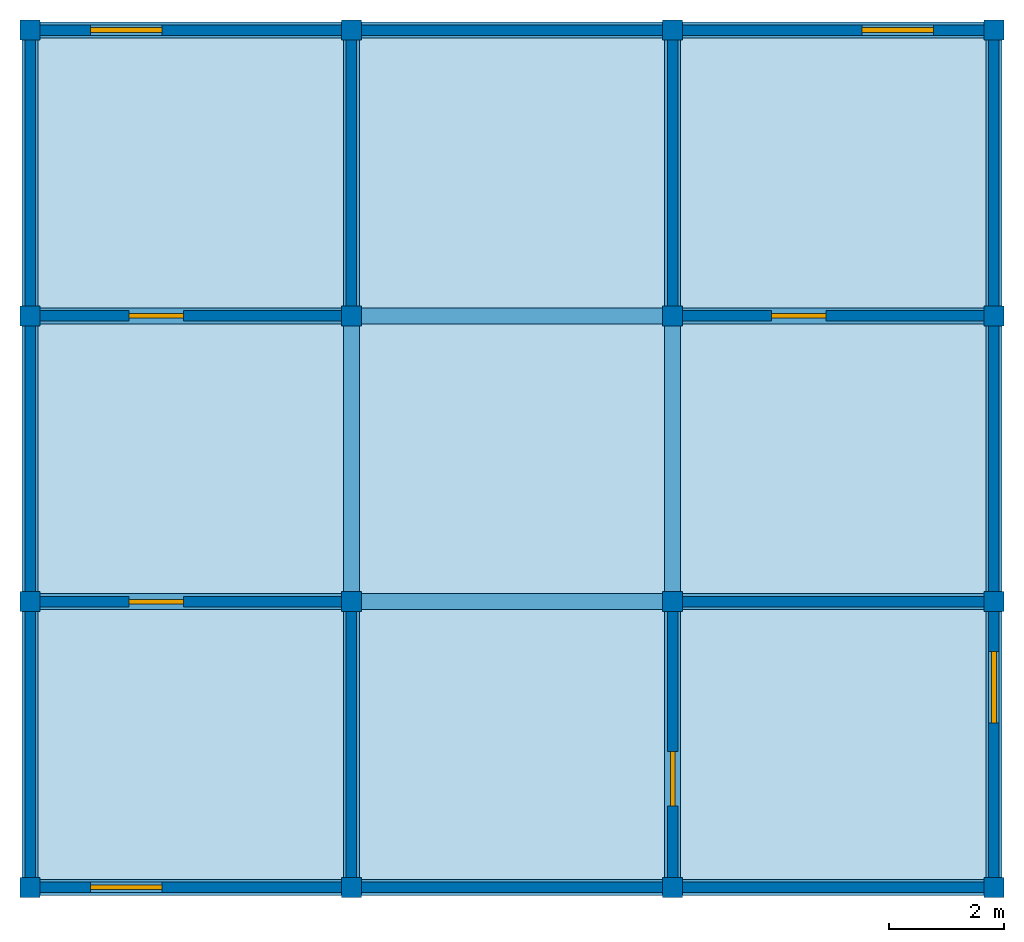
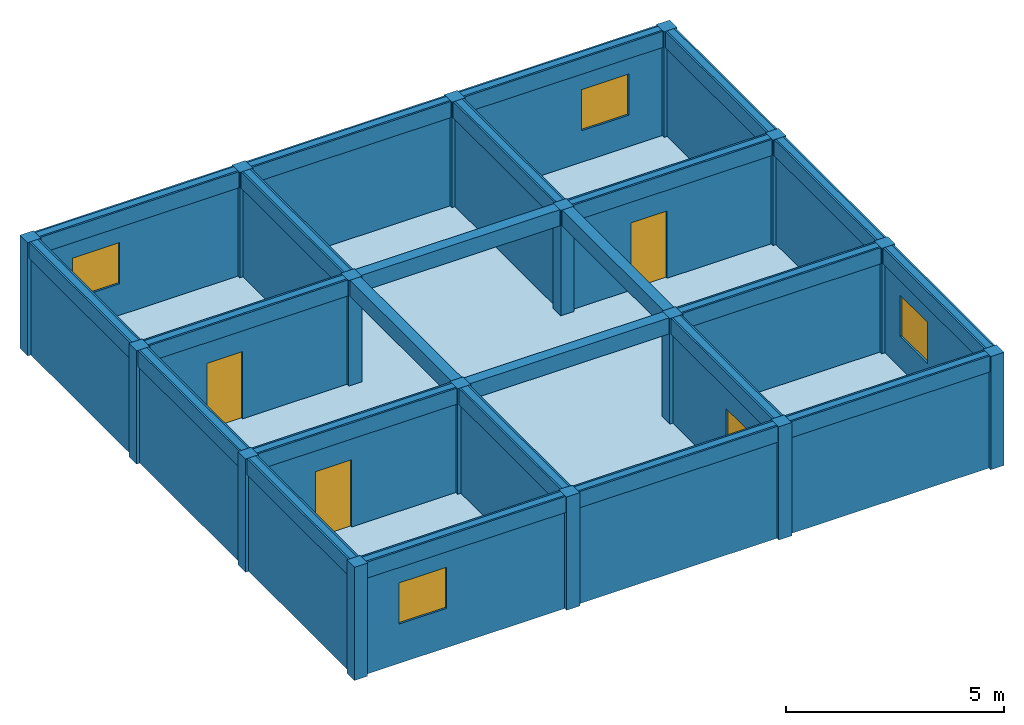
# One storey: 24 beams, 20 walls, 16 columns, 4 doors, 4 windows, 1 slab, 8 openings.
"""IFC4X3 building model written with IfcOpenShell, lengths in metres."""

from ifc_helpers import new_model, si_unit, frame, origin_with_axes, origin_2d, place, context, project, spatial, rectangle, extrude, material, element, fill, save


model = new_model("IFC4X3")

# Units and contexts
model_context = context("Model", 3, precision=1e-05, world=origin_with_axes())
ifc_project = project(units=[si_unit("LENGTHUNIT", "METRE"), si_unit("AREAUNIT", "SQUARE_METRE"), si_unit("VOLUMEUNIT", "CUBIC_METRE")], contexts=[model_context])

# Site, building, storey
site = spatial("IfcSite", under=ifc_project, Name="Puerto Montt Parcel", CompositionType="ELEMENT")
building = spatial("IfcBuilding", under=site, Name="Apex Hub", CompositionType="ELEMENT")
storey = spatial("IfcBuildingStorey", under=building, Name="Level 8", CompositionType="ELEMENT", Elevation=22.17)

# Columns
ifc_material_1 = material(Name="Timber")
column_1_placement = place(None, frame((-8.415, -7.485, 22.171), z_axis=(0.0, 0.0, 1.0), x_axis=(1.0, 0.0, 0.0)))
element("IfcColumn", 1, at=column_1_placement, inside=storey, material=ifc_material_1, Name="Column 8.1", ObjectType="Structural Column", PredefinedType="PILASTER", context=model_context, shape_type="SweptSolid", body=[
    extrude(rectangle(XDim=0.35, YDim=0.35, at=origin_2d()), origin_with_axes(), (0.0, 0.0, 1.0), 3.167),
])
column_2_placement = place(None, frame((-8.415, -2.495, 22.171), z_axis=(0.0, 0.0, 1.0), x_axis=(1.0, 0.0, 0.0)))
element("IfcColumn", 2, at=column_2_placement, inside=storey, material=ifc_material_1, Name="Column 8.2", ObjectType="Core Column", PredefinedType="COLUMN", context=model_context, shape_type="SweptSolid", body=[
    extrude(rectangle(XDim=0.35, YDim=0.35, at=origin_2d()), origin_with_axes(), (0.0, 0.0, 1.0), 3.167),
])
column_3_placement = place(None, frame((-8.415, 2.495, 22.171), z_axis=(0.0, 0.0, 1.0), x_axis=(1.0, 0.0, 0.0)))
element("IfcColumn", 3, at=column_3_placement, inside=storey, material=ifc_material_1, Name="Column 8.3", ObjectType="Corner Column", PredefinedType="USERDEFINED", context=model_context, shape_type="SweptSolid", body=[
    extrude(rectangle(XDim=0.35, YDim=0.35, at=origin_2d()), origin_with_axes(), (0.0, 0.0, 1.0), 3.167),
])
for number, where, z_axis, x_axis, name in (
    (4, (-8.415, 7.485, 22.171), (0.0, 0.0, 1.0), (1.0, 0.0, 0.0), "Column 8.4"),
    (5, (-2.805, -7.485, 22.171), (0.0, 0.0, 1.0), (1.0, 0.0, 0.0), "Column 8.5"),
):
    element("IfcColumn", number, at=place(None, frame(where, z_axis=z_axis, x_axis=x_axis)), inside=storey, material=ifc_material_1, Name=name, ObjectType="Facade Column", PredefinedType="COLUMN", context=model_context, shape_type="SweptSolid", body=[
        extrude(rectangle(XDim=0.35, YDim=0.35, at=origin_2d()), origin_with_axes(), (0.0, 0.0, 1.0), 3.167),
    ])
column_4_placement = place(None, frame((-2.805, -2.495, 22.171), z_axis=(0.0, 0.0, 1.0), x_axis=(1.0, 0.0, 0.0)))
element("IfcColumn", 6, at=column_4_placement, inside=storey, material=ifc_material_1, Name="Column 8.6", ObjectType="Facade Column", PredefinedType="PILASTER", context=model_context, shape_type="SweptSolid", body=[
    extrude(rectangle(XDim=0.35, YDim=0.35, at=origin_2d()), origin_with_axes(), (0.0, 0.0, 1.0), 3.167),
])
column_5_placement = place(None, frame((-2.805, 2.495, 22.171), z_axis=(0.0, 0.0, 1.0), x_axis=(1.0, 0.0, 0.0)))
element("IfcColumn", 7, at=column_5_placement, inside=storey, material=ifc_material_1, Name="Column 8.7", ObjectType="Structural Column", PredefinedType="USERDEFINED", context=model_context, shape_type="SweptSolid", body=[
    extrude(rectangle(XDim=0.35, YDim=0.35, at=origin_2d()), origin_with_axes(), (0.0, 0.0, 1.0), 3.167),
])
column_6_placement = place(None, frame((-2.805, 7.485, 22.171), z_axis=(0.0, 0.0, 1.0), x_axis=(1.0, 0.0, 0.0)))
element("IfcColumn", 8, at=column_6_placement, inside=storey, material=ifc_material_1, Name="Column 8.8", ObjectType="Core Column", PredefinedType="NOTDEFINED", context=model_context, shape_type="SweptSolid", body=[
    extrude(rectangle(XDim=0.35, YDim=0.35, at=origin_2d()), origin_with_axes(), (0.0, 0.0, 1.0), 3.167),
])
column_7_placement = place(None, frame((2.805, -7.485, 22.171), z_axis=(0.0, 0.0, 1.0), x_axis=(1.0, 0.0, 0.0)))
element("IfcColumn", 9, at=column_7_placement, inside=storey, material=ifc_material_1, Name="Column 8.9", ObjectType="Core Column", PredefinedType="USERDEFINED", context=model_context, shape_type="SweptSolid", body=[
    extrude(rectangle(XDim=0.35, YDim=0.35, at=origin_2d()), origin_with_axes(), (0.0, 0.0, 1.0), 3.167),
])
for number, where, z_axis, x_axis, name in (
    (10, (2.805, -2.495, 22.171), (0.0, 0.0, 1.0), (1.0, 0.0, 0.0), "Column 8.10"),
    (11, (2.805, 2.495, 22.171), (0.0, 0.0, 1.0), (1.0, 0.0, 0.0), "Column 8.11"),
):
    element("IfcColumn", number, at=place(None, frame(where, z_axis=z_axis, x_axis=x_axis)), inside=storey, material=ifc_material_1, Name=name, ObjectType="Core Column", PredefinedType="NOTDEFINED", context=model_context, shape_type="SweptSolid", body=[
        extrude(rectangle(XDim=0.35, YDim=0.35, at=origin_2d()), origin_with_axes(), (0.0, 0.0, 1.0), 3.167),
    ])
column_8_placement = place(None, frame((2.805, 7.485, 22.171), z_axis=(0.0, 0.0, 1.0), x_axis=(1.0, 0.0, 0.0)))
element("IfcColumn", 12, at=column_8_placement, inside=storey, material=ifc_material_1, Name="Column 8.12", ObjectType="Facade Column", PredefinedType="COLUMN", context=model_context, shape_type="SweptSolid", body=[
    extrude(rectangle(XDim=0.35, YDim=0.35, at=origin_2d()), origin_with_axes(), (0.0, 0.0, 1.0), 3.167),
])
column_9_placement = place(None, frame((8.415, -7.485, 22.171), z_axis=(0.0, 0.0, 1.0), x_axis=(1.0, 0.0, 0.0)))
element("IfcColumn", 13, at=column_9_placement, inside=storey, material=ifc_material_1, Name="Column 8.13", ObjectType="Core Column", PredefinedType="NOTDEFINED", context=model_context, shape_type="SweptSolid", body=[
    extrude(rectangle(XDim=0.35, YDim=0.35, at=origin_2d()), origin_with_axes(), (0.0, 0.0, 1.0), 3.167),
])
column_10_placement = place(None, frame((8.415, -2.495, 22.171), z_axis=(0.0, 0.0, 1.0), x_axis=(1.0, 0.0, 0.0)))
element("IfcColumn", 14, at=column_10_placement, inside=storey, material=ifc_material_1, Name="Column 8.14", ObjectType="Structural Column", PredefinedType="USERDEFINED", context=model_context, shape_type="SweptSolid", body=[
    extrude(rectangle(XDim=0.35, YDim=0.35, at=origin_2d()), origin_with_axes(), (0.0, 0.0, 1.0), 3.167),
])
column_11_placement = place(None, frame((8.415, 2.495, 22.171), z_axis=(0.0, 0.0, 1.0), x_axis=(1.0, 0.0, 0.0)))
element("IfcColumn", 15, at=column_11_placement, inside=storey, material=ifc_material_1, Name="Column 8.15", ObjectType="Structural Column", PredefinedType="NOTDEFINED", context=model_context, shape_type="SweptSolid", body=[
    extrude(rectangle(XDim=0.35, YDim=0.35, at=origin_2d()), origin_with_axes(), (0.0, 0.0, 1.0), 3.167),
])
column_12_placement = place(None, frame((8.415, 7.485, 22.171), z_axis=(0.0, 0.0, 1.0), x_axis=(1.0, 0.0, 0.0)))
element("IfcColumn", 16, at=column_12_placement, inside=storey, material=ifc_material_1, Name="Column 8.16", ObjectType="Structural Column", PredefinedType="COLUMN", context=model_context, shape_type="SweptSolid", body=[
    extrude(rectangle(XDim=0.35, YDim=0.35, at=origin_2d()), origin_with_axes(), (0.0, 0.0, 1.0), 3.167),
])

# Beams
beam_1_placement = place(None, frame((-5.61, -7.485, 24.888), z_axis=(0.0, 0.0, 1.0), x_axis=(1.0, 0.0, 0.0)))
element("IfcBeam", 17, at=beam_1_placement, inside=storey, material=ifc_material_1, Name="Beam 8.1", ObjectType="Ridge Beam", PredefinedType="T_BEAM", context=model_context, shape_type="SweptSolid", body=[
    extrude(rectangle(XDim=5.61, YDim=0.28, at=origin_2d()), origin_with_axes(), (0.0, 0.0, 1.0), 0.45),
])
beam_2_placement = place(None, frame((0.0, -7.485, 24.888), z_axis=(0.0, 0.0, 1.0), x_axis=(1.0, 0.0, 0.0)))
element("IfcBeam", 18, at=beam_2_placement, inside=storey, material=ifc_material_1, Name="Beam 8.2", ObjectType="Rafter Beam", PredefinedType="LINTEL", context=model_context, shape_type="SweptSolid", body=[
    extrude(rectangle(XDim=5.61, YDim=0.28, at=origin_2d()), origin_with_axes(), (0.0, 0.0, 1.0), 0.45),
])
beam_3_placement = place(None, frame((5.61, -7.485, 24.888), z_axis=(0.0, 0.0, 1.0), x_axis=(1.0, 0.0, 0.0)))
element("IfcBeam", 19, at=beam_3_placement, inside=storey, material=ifc_material_1, Name="Beam 8.3", ObjectType="Ridge Beam", PredefinedType="BEAM", context=model_context, shape_type="SweptSolid", body=[
    extrude(rectangle(XDim=5.61, YDim=0.28, at=origin_2d()), origin_with_axes(), (0.0, 0.0, 1.0), 0.45),
])
beam_4_placement = place(None, frame((-5.61, -2.495, 24.888), z_axis=(0.0, 0.0, 1.0), x_axis=(1.0, 0.0, 0.0)))
element("IfcBeam", 20, at=beam_4_placement, inside=storey, material=ifc_material_1, Name="Beam 8.4", ObjectType="Transfer Beam", PredefinedType="T_BEAM", context=model_context, shape_type="SweptSolid", body=[
    extrude(rectangle(XDim=5.61, YDim=0.28, at=origin_2d()), origin_with_axes(), (0.0, 0.0, 1.0), 0.45),
])
beam_5_placement = place(None, frame((0.0, -2.495, 24.888), z_axis=(0.0, 0.0, 1.0), x_axis=(1.0, 0.0, 0.0)))
element("IfcBeam", 21, at=beam_5_placement, inside=storey, material=ifc_material_1, Name="Beam 8.5", ObjectType="Secondary Beam", PredefinedType="NOTDEFINED", context=model_context, shape_type="SweptSolid", body=[
    extrude(rectangle(XDim=5.61, YDim=0.28, at=origin_2d()), origin_with_axes(), (0.0, 0.0, 1.0), 0.45),
])
beam_6_placement = place(None, frame((5.61, -2.495, 24.888), z_axis=(0.0, 0.0, 1.0), x_axis=(1.0, 0.0, 0.0)))
element("IfcBeam", 22, at=beam_6_placement, inside=storey, material=ifc_material_1, Name="Beam 8.6", ObjectType="Primary Beam", PredefinedType="BEAM", context=model_context, shape_type="SweptSolid", body=[
    extrude(rectangle(XDim=5.61, YDim=0.28, at=origin_2d()), origin_with_axes(), (0.0, 0.0, 1.0), 0.45),
])
beam_7_placement = place(None, frame((-5.61, 2.495, 24.888), z_axis=(0.0, 0.0, 1.0), x_axis=(1.0, 0.0, 0.0)))
element("IfcBeam", 23, at=beam_7_placement, inside=storey, material=ifc_material_1, Name="Beam 8.7", ObjectType="Transfer Beam", PredefinedType="NOTDEFINED", context=model_context, shape_type="SweptSolid", body=[
    extrude(rectangle(XDim=5.61, YDim=0.28, at=origin_2d()), origin_with_axes(), (0.0, 0.0, 1.0), 0.45),
])
beam_8_placement = place(None, frame((0.0, 2.495, 24.888), z_axis=(0.0, 0.0, 1.0), x_axis=(1.0, 0.0, 0.0)))
element("IfcBeam", 24, at=beam_8_placement, inside=storey, material=ifc_material_1, Name="Beam 8.8", ObjectType="Ridge Beam", PredefinedType="JOIST", context=model_context, shape_type="SweptSolid", body=[
    extrude(rectangle(XDim=5.61, YDim=0.28, at=origin_2d()), origin_with_axes(), (0.0, 0.0, 1.0), 0.45),
])
beam_9_placement = place(None, frame((5.61, 2.495, 24.888), z_axis=(0.0, 0.0, 1.0), x_axis=(1.0, 0.0, 0.0)))
element("IfcBeam", 25, at=beam_9_placement, inside=storey, material=ifc_material_1, Name="Beam 8.9", ObjectType="Primary Beam", PredefinedType="SPANDREL", context=model_context, shape_type="SweptSolid", body=[
    extrude(rectangle(XDim=5.61, YDim=0.28, at=origin_2d()), origin_with_axes(), (0.0, 0.0, 1.0), 0.45),
])
beam_10_placement = place(None, frame((-5.61, 7.485, 24.888), z_axis=(0.0, 0.0, 1.0), x_axis=(1.0, 0.0, 0.0)))
element("IfcBeam", 26, at=beam_10_placement, inside=storey, material=ifc_material_1, Name="Beam 8.10", ObjectType="Secondary Beam", PredefinedType="T_BEAM", context=model_context, shape_type="SweptSolid", body=[
    extrude(rectangle(XDim=5.61, YDim=0.28, at=origin_2d()), origin_with_axes(), (0.0, 0.0, 1.0), 0.45),
])
beam_11_placement = place(None, frame((0.0, 7.485, 24.888), z_axis=(0.0, 0.0, 1.0), x_axis=(1.0, 0.0, 0.0)))
element("IfcBeam", 27, at=beam_11_placement, inside=storey, material=ifc_material_1, Name="Beam 8.11", ObjectType="Secondary Beam", PredefinedType="BEAM", context=model_context, shape_type="SweptSolid", body=[
    extrude(rectangle(XDim=5.61, YDim=0.28, at=origin_2d()), origin_with_axes(), (0.0, 0.0, 1.0), 0.45),
])
beam_12_placement = place(None, frame((5.61, 7.485, 24.888), z_axis=(0.0, 0.0, 1.0), x_axis=(1.0, 0.0, 0.0)))
element("IfcBeam", 28, at=beam_12_placement, inside=storey, material=ifc_material_1, Name="Beam 8.12", ObjectType="Secondary Beam", PredefinedType="NOTDEFINED", context=model_context, shape_type="SweptSolid", body=[
    extrude(rectangle(XDim=5.61, YDim=0.28, at=origin_2d()), origin_with_axes(), (0.0, 0.0, 1.0), 0.45),
])
beam_13_placement = place(None, frame((-8.415, -4.99, 24.888), z_axis=(0.0, 0.0, 1.0), x_axis=(0.0, 1.0, 0.0)))
element("IfcBeam", 29, at=beam_13_placement, inside=storey, material=ifc_material_1, Name="Beam 8.13", ObjectType="Rafter Beam", PredefinedType="NOTDEFINED", context=model_context, shape_type="SweptSolid", body=[
    extrude(rectangle(XDim=4.99, YDim=0.28, at=origin_2d()), origin_with_axes(), (0.0, 0.0, 1.0), 0.45),
])
beam_14_placement = place(None, frame((-8.415, 0.0, 24.888), z_axis=(0.0, 0.0, 1.0), x_axis=(0.0, 1.0, 0.0)))
element("IfcBeam", 30, at=beam_14_placement, inside=storey, material=ifc_material_1, Name="Beam 8.14", ObjectType="Primary Beam", PredefinedType="HOLLOWCORE", context=model_context, shape_type="SweptSolid", body=[
    extrude(rectangle(XDim=4.99, YDim=0.28, at=origin_2d()), origin_with_axes(), (0.0, 0.0, 1.0), 0.45),
])
beam_15_placement = place(None, frame((-8.415, 4.99, 24.888), z_axis=(0.0, 0.0, 1.0), x_axis=(0.0, 1.0, 0.0)))
element("IfcBeam", 31, at=beam_15_placement, inside=storey, material=ifc_material_1, Name="Beam 8.15", ObjectType="Secondary Beam", PredefinedType="JOIST", context=model_context, shape_type="SweptSolid", body=[
    extrude(rectangle(XDim=4.99, YDim=0.28, at=origin_2d()), origin_with_axes(), (0.0, 0.0, 1.0), 0.45),
])
beam_16_placement = place(None, frame((-2.805, -4.99, 24.888), z_axis=(0.0, 0.0, 1.0), x_axis=(0.0, 1.0, 0.0)))
element("IfcBeam", 32, at=beam_16_placement, inside=storey, material=ifc_material_1, Name="Beam 8.16", ObjectType="Ridge Beam", PredefinedType="USERDEFINED", context=model_context, shape_type="SweptSolid", body=[
    extrude(rectangle(XDim=4.99, YDim=0.28, at=origin_2d()), origin_with_axes(), (0.0, 0.0, 1.0), 0.45),
])
beam_17_placement = place(None, frame((-2.805, 0.0, 24.888), z_axis=(0.0, 0.0, 1.0), x_axis=(0.0, 1.0, 0.0)))
element("IfcBeam", 33, at=beam_17_placement, inside=storey, material=ifc_material_1, Name="Beam 8.17", ObjectType="Primary Beam", PredefinedType="SPANDREL", context=model_context, shape_type="SweptSolid", body=[
    extrude(rectangle(XDim=4.99, YDim=0.28, at=origin_2d()), origin_with_axes(), (0.0, 0.0, 1.0), 0.45),
])
beam_18_placement = place(None, frame((-2.805, 4.99, 24.888), z_axis=(0.0, 0.0, 1.0), x_axis=(0.0, 1.0, 0.0)))
element("IfcBeam", 34, at=beam_18_placement, inside=storey, material=ifc_material_1, Name="Beam 8.18", ObjectType="Primary Beam", PredefinedType="USERDEFINED", context=model_context, shape_type="SweptSolid", body=[
    extrude(rectangle(XDim=4.99, YDim=0.28, at=origin_2d()), origin_with_axes(), (0.0, 0.0, 1.0), 0.45),
])
beam_19_placement = place(None, frame((2.805, -4.99, 24.888), z_axis=(0.0, 0.0, 1.0), x_axis=(0.0, 1.0, 0.0)))
element("IfcBeam", 35, at=beam_19_placement, inside=storey, material=ifc_material_1, Name="Beam 8.19", ObjectType="Transfer Beam", PredefinedType="NOTDEFINED", context=model_context, shape_type="SweptSolid", body=[
    extrude(rectangle(XDim=4.99, YDim=0.28, at=origin_2d()), origin_with_axes(), (0.0, 0.0, 1.0), 0.45),
])
beam_20_placement = place(None, frame((2.805, 0.0, 24.888), z_axis=(0.0, 0.0, 1.0), x_axis=(0.0, 1.0, 0.0)))
element("IfcBeam", 36, at=beam_20_placement, inside=storey, material=ifc_material_1, Name="Beam 8.20", ObjectType="Transfer Beam", PredefinedType="HOLLOWCORE", context=model_context, shape_type="SweptSolid", body=[
    extrude(rectangle(XDim=4.99, YDim=0.28, at=origin_2d()), origin_with_axes(), (0.0, 0.0, 1.0), 0.45),
])
beam_21_placement = place(None, frame((2.805, 4.99, 24.888), z_axis=(0.0, 0.0, 1.0), x_axis=(0.0, 1.0, 0.0)))
element("IfcBeam", 37, at=beam_21_placement, inside=storey, material=ifc_material_1, Name="Beam 8.21", ObjectType="Transfer Beam", PredefinedType="NOTDEFINED", context=model_context, shape_type="SweptSolid", body=[
    extrude(rectangle(XDim=4.99, YDim=0.28, at=origin_2d()), origin_with_axes(), (0.0, 0.0, 1.0), 0.45),
])
beam_22_placement = place(None, frame((8.415, -4.99, 24.888), z_axis=(0.0, 0.0, 1.0), x_axis=(0.0, 1.0, 0.0)))
element("IfcBeam", 38, at=beam_22_placement, inside=storey, material=ifc_material_1, Name="Beam 8.22", ObjectType="Rafter Beam", PredefinedType="SPANDREL", context=model_context, shape_type="SweptSolid", body=[
    extrude(rectangle(XDim=4.99, YDim=0.28, at=origin_2d()), origin_with_axes(), (0.0, 0.0, 1.0), 0.45),
])
beam_23_placement = place(None, frame((8.415, 0.0, 24.888), z_axis=(0.0, 0.0, 1.0), x_axis=(0.0, 1.0, 0.0)))
element("IfcBeam", 39, at=beam_23_placement, inside=storey, material=ifc_material_1, Name="Beam 8.23", ObjectType="Transfer Beam", PredefinedType="SPANDREL", context=model_context, shape_type="SweptSolid", body=[
    extrude(rectangle(XDim=4.99, YDim=0.28, at=origin_2d()), origin_with_axes(), (0.0, 0.0, 1.0), 0.45),
])
beam_24_placement = place(None, frame((8.415, 4.99, 24.888), z_axis=(0.0, 0.0, 1.0), x_axis=(0.0, 1.0, 0.0)))
element("IfcBeam", 40, at=beam_24_placement, inside=storey, material=ifc_material_1, Name="Beam 8.24", ObjectType="Primary Beam", PredefinedType="SPANDREL", context=model_context, shape_type="SweptSolid", body=[
    extrude(rectangle(XDim=4.99, YDim=0.28, at=origin_2d()), origin_with_axes(), (0.0, 0.0, 1.0), 0.45),
])

# Slab
ifc_material_2 = material(Name="Composite")
slab_placement = place(None, frame((0.0, 0.0, 22.17), z_axis=(0.0, 0.0, 1.0), x_axis=(1.0, 0.0, 0.0)))
element("IfcSlab", 41, at=slab_placement, inside=storey, material=ifc_material_2, Name="Slab 8", ObjectType="Floor Slab", PredefinedType="FLOOR", context=model_context, shape_type="SweptSolid", body=[
    extrude(rectangle(XDim=16.83, YDim=14.97, at=origin_2d()), origin_with_axes(), (0.0, 0.0, 1.0), 0.22),
])

# Wall, opening, door
ifc_material_3 = material(Name="Brick")
wall_1_placement = place(None, frame((-5.61, -2.495, 22.171), z_axis=(0.0, 0.0, 1.0), x_axis=(1.0, 0.0, 0.0)))
wall_1 = element("IfcWall", 42, at=wall_1_placement, inside=storey, material=ifc_material_3, Name="Wall 8.1", ObjectType="Corridor Partition", PredefinedType="PARAPET", context=model_context, shape_type="SweptSolid", body=[
    extrude(rectangle(XDim=5.61, YDim=0.183393, at=origin_2d()), origin_with_axes(), (0.0, 0.0, 1.0), 3.167),
])
opening_1_placement = place(None, frame((-6.21, -2.495, 22.171), z_axis=(0.0, 0.0, 1.0), x_axis=(1.0, 0.0, 0.0)))
opening_1 = element("IfcOpeningElement", 43, at=opening_1_placement, cuts=wall_1, Name="Door opening 8.1", ObjectType="Door Opening", PredefinedType="OPENING", context=model_context, shape_type="SweptSolid", body=[
    extrude(rectangle(XDim=0.95, YDim=0.263393, at=origin_2d()), origin_with_axes(), (0.0, 0.0, 1.0), 2.1),
])
door_1_placement = place(None, frame((-6.21, -2.495, 22.171), z_axis=(0.0, 0.0, 1.0), x_axis=(1.0, 0.0, 0.0)))
door_1 = element("IfcDoor", 44, at=door_1_placement, inside=storey, Name="Door 8.1", ObjectType="Fire Door", OverallHeight=2.1, OverallWidth=0.95, context=model_context, shape_type="SweptSolid", body=[
    extrude(rectangle(XDim=0.95, YDim=0.08, at=origin_2d()), origin_with_axes(), (0.0, 0.0, 1.0), 2.1),
])
fill(opening_1, door_1)

# Wall
ifc_material_4 = material(Name="Concrete")
wall_2_placement = place(None, frame((-2.805, -4.99, 22.171), z_axis=(0.0, 0.0, 1.0), x_axis=(0.0, 1.0, 0.0)))
element("IfcWall", 45, at=wall_2_placement, inside=storey, material=ifc_material_4, Name="Wall 8.2", ObjectType="Corridor Partition", PredefinedType="SHEAR", context=model_context, shape_type="SweptSolid", body=[
    extrude(rectangle(XDim=4.99, YDim=0.183393, at=origin_2d()), origin_with_axes(), (0.0, 0.0, 1.0), 3.167),
])

# Wall, opening, window
wall_3_placement = place(None, frame((-5.61, -7.485, 22.171), z_axis=(0.0, 0.0, 1.0), x_axis=(1.0, 0.0, 0.0)))
wall_3 = element("IfcWall", 46, at=wall_3_placement, inside=storey, material=ifc_material_3, Name="Wall 8.3", ObjectType="Exterior Wall", PredefinedType="ELEMENTEDWALL", context=model_context, shape_type="SweptSolid", body=[
    extrude(rectangle(XDim=5.61, YDim=0.183393, at=origin_2d()), origin_with_axes(), (0.0, 0.0, 1.0), 3.167),
])
opening_2_placement = place(None, frame((-6.732, -7.485, 23.271), z_axis=(0.0, 0.0, 1.0), x_axis=(1.0, 0.0, 0.0)))
opening_2 = element("IfcOpeningElement", 47, at=opening_2_placement, cuts=wall_3, Name="Window opening 8.2", ObjectType="Window Opening", PredefinedType="OPENING", context=model_context, shape_type="SweptSolid", body=[
    extrude(rectangle(XDim=1.25, YDim=0.263393, at=origin_2d()), origin_with_axes(), (0.0, 0.0, 1.0), 1.15),
])
window_1_placement = place(None, frame((-6.732, -7.485, 23.271), z_axis=(0.0, 0.0, 1.0), x_axis=(1.0, 0.0, 0.0)))
window_1 = element("IfcWindow", 48, at=window_1_placement, inside=storey, Name="Window 8.2", ObjectType="Fixed Window", OverallHeight=1.15, OverallWidth=1.25, context=model_context, shape_type="SweptSolid", body=[
    extrude(rectangle(XDim=1.25, YDim=0.08, at=origin_2d()), origin_with_axes(), (0.0, 0.0, 1.0), 1.15),
])
fill(opening_2, window_1)

# Wall
wall_4_placement = place(None, frame((-8.415, -4.99, 22.171), z_axis=(0.0, 0.0, 1.0), x_axis=(0.0, 1.0, 0.0)))
element("IfcWall", 49, at=wall_4_placement, inside=storey, material=ifc_material_4, Name="Wall 8.4", ObjectType="Exterior Wall", PredefinedType="PLUMBINGWALL", context=model_context, shape_type="SweptSolid", body=[
    extrude(rectangle(XDim=4.99, YDim=0.183393, at=origin_2d()), origin_with_axes(), (0.0, 0.0, 1.0), 3.167),
])

# Wall, opening, door
wall_5_placement = place(None, frame((2.805, -4.99, 22.171), z_axis=(0.0, 0.0, 1.0), x_axis=(0.0, 1.0, 0.0)))
wall_5 = element("IfcWall", 50, at=wall_5_placement, inside=storey, material=ifc_material_4, Name="Wall 8.5", ObjectType="Corridor Partition", PredefinedType="PLUMBINGWALL", context=model_context, shape_type="SweptSolid", body=[
    extrude(rectangle(XDim=4.99, YDim=0.183393, at=origin_2d()), origin_with_axes(), (0.0, 0.0, 1.0), 3.167),
])
opening_3_placement = place(None, frame((2.805, -5.59, 22.171), z_axis=(0.0, 0.0, 1.0), x_axis=(0.0, 1.0, 0.0)))
opening_3 = element("IfcOpeningElement", 51, at=opening_3_placement, cuts=wall_5, Name="Door opening 8.3", ObjectType="Door Opening", PredefinedType="OPENING", context=model_context, shape_type="SweptSolid", body=[
    extrude(rectangle(XDim=0.95, YDim=0.263393, at=origin_2d()), origin_with_axes(), (0.0, 0.0, 1.0), 2.1),
])
door_2_placement = place(None, frame((2.805, -5.59, 22.171), z_axis=(0.0, 0.0, 1.0), x_axis=(0.0, 1.0, 0.0)))
door_2 = element("IfcDoor", 52, at=door_2_placement, inside=storey, Name="Door 8.3", ObjectType="Entry Door", OverallHeight=2.1, OverallWidth=0.95, context=model_context, shape_type="SweptSolid", body=[
    extrude(rectangle(XDim=0.95, YDim=0.08, at=origin_2d()), origin_with_axes(), (0.0, 0.0, 1.0), 2.1),
])
fill(opening_3, door_2)

# Walls
wall_6_placement = place(None, frame((0.0, -7.485, 22.171), z_axis=(0.0, 0.0, 1.0), x_axis=(1.0, 0.0, 0.0)))
element("IfcWall", 53, at=wall_6_placement, inside=storey, material=ifc_material_3, Name="Wall 8.6", ObjectType="Exterior Wall", PredefinedType="NOTDEFINED", context=model_context, shape_type="SweptSolid", body=[
    extrude(rectangle(XDim=5.61, YDim=0.183393, at=origin_2d()), origin_with_axes(), (0.0, 0.0, 1.0), 3.167),
])
ifc_material_5 = material(Name="Gypsum")
wall_7_placement = place(None, frame((5.61, -2.495, 22.171), z_axis=(0.0, 0.0, 1.0), x_axis=(1.0, 0.0, 0.0)))
element("IfcWall", 54, at=wall_7_placement, inside=storey, material=ifc_material_5, Name="Wall 8.7", ObjectType="Corridor Partition", PredefinedType="SHEAR", context=model_context, shape_type="SweptSolid", body=[
    extrude(rectangle(XDim=5.61, YDim=0.183393, at=origin_2d()), origin_with_axes(), (0.0, 0.0, 1.0), 3.167),
])

# Wall, opening, window
ifc_material_6 = material(Name="CLT")
wall_8_placement = place(None, frame((8.415, -4.99, 22.171), z_axis=(0.0, 0.0, 1.0), x_axis=(0.0, 1.0, 0.0)))
wall_8 = element("IfcWall", 55, at=wall_8_placement, inside=storey, material=ifc_material_6, Name="Wall 8.8", ObjectType="Exterior Wall", PredefinedType="SOLIDWALL", context=model_context, shape_type="SweptSolid", body=[
    extrude(rectangle(XDim=4.99, YDim=0.183393, at=origin_2d()), origin_with_axes(), (0.0, 0.0, 1.0), 3.167),
])
opening_4_placement = place(None, frame((8.415, -3.992, 23.271), z_axis=(0.0, 0.0, 1.0), x_axis=(0.0, 1.0, 0.0)))
opening_4 = element("IfcOpeningElement", 56, at=opening_4_placement, cuts=wall_8, Name="Window opening 8.4", ObjectType="Window Opening", PredefinedType="OPENING", context=model_context, shape_type="SweptSolid", body=[
    extrude(rectangle(XDim=1.25, YDim=0.263393, at=origin_2d()), origin_with_axes(), (0.0, 0.0, 1.0), 1.15),
])
window_2_placement = place(None, frame((8.415, -3.992, 23.271), z_axis=(0.0, 0.0, 1.0), x_axis=(0.0, 1.0, 0.0)))
window_2 = element("IfcWindow", 57, at=window_2_placement, inside=storey, Name="Window 8.4", ObjectType="Sliding Window", OverallHeight=1.15, OverallWidth=1.25, context=model_context, shape_type="SweptSolid", body=[
    extrude(rectangle(XDim=1.25, YDim=0.08, at=origin_2d()), origin_with_axes(), (0.0, 0.0, 1.0), 1.15),
])
fill(opening_4, window_2)

# Wall
wall_9_placement = place(None, frame((5.61, -7.485, 22.171), z_axis=(0.0, 0.0, 1.0), x_axis=(1.0, 0.0, 0.0)))
element("IfcWall", 58, at=wall_9_placement, inside=storey, material=ifc_material_6, Name="Wall 8.9", ObjectType="Exterior Wall", PredefinedType="STANDARD", context=model_context, shape_type="SweptSolid", body=[
    extrude(rectangle(XDim=5.61, YDim=0.183393, at=origin_2d()), origin_with_axes(), (0.0, 0.0, 1.0), 3.167),
])

# Wall, opening, door
wall_10_placement = place(None, frame((-5.61, 2.495, 22.171), z_axis=(0.0, 0.0, 1.0), x_axis=(1.0, 0.0, 0.0)))
wall_10 = element("IfcWall", 59, at=wall_10_placement, inside=storey, material=ifc_material_3, Name="Wall 8.10", ObjectType="Corridor Partition", PredefinedType="POLYGONAL", context=model_context, shape_type="SweptSolid", body=[
    extrude(rectangle(XDim=5.61, YDim=0.183393, at=origin_2d()), origin_with_axes(), (0.0, 0.0, 1.0), 3.167),
])
opening_5_placement = place(None, frame((-6.21, 2.495, 22.171), z_axis=(0.0, 0.0, 1.0), x_axis=(1.0, 0.0, 0.0)))
opening_5 = element("IfcOpeningElement", 60, at=opening_5_placement, cuts=wall_10, Name="Door opening 8.5", ObjectType="Door Opening", PredefinedType="OPENING", context=model_context, shape_type="SweptSolid", body=[
    extrude(rectangle(XDim=0.95, YDim=0.263393, at=origin_2d()), origin_with_axes(), (0.0, 0.0, 1.0), 2.1),
])
door_3_placement = place(None, frame((-6.21, 2.495, 22.171), z_axis=(0.0, 0.0, 1.0), x_axis=(1.0, 0.0, 0.0)))
door_3 = element("IfcDoor", 61, at=door_3_placement, inside=storey, Name="Door 8.5", ObjectType="Interior Door", OverallHeight=2.1, OverallWidth=0.95, context=model_context, shape_type="SweptSolid", body=[
    extrude(rectangle(XDim=0.95, YDim=0.08, at=origin_2d()), origin_with_axes(), (0.0, 0.0, 1.0), 2.1),
])
fill(opening_5, door_3)

# Wall
wall_11_placement = place(None, frame((-8.415, 0.0, 22.171), z_axis=(0.0, 0.0, 1.0), x_axis=(0.0, 1.0, 0.0)))
element("IfcWall", 62, at=wall_11_placement, inside=storey, material=ifc_material_4, Name="Wall 8.11", ObjectType="Exterior Wall", PredefinedType="PARTITIONING", context=model_context, shape_type="SweptSolid", body=[
    extrude(rectangle(XDim=4.99, YDim=0.183393, at=origin_2d()), origin_with_axes(), (0.0, 0.0, 1.0), 3.167),
])

# Wall, opening, door
wall_12_placement = place(None, frame((5.61, 2.495, 22.171), z_axis=(0.0, 0.0, 1.0), x_axis=(1.0, 0.0, 0.0)))
wall_12 = element("IfcWall", 63, at=wall_12_placement, inside=storey, material=ifc_material_6, Name="Wall 8.12", ObjectType="Corridor Partition", PredefinedType="USERDEFINED", context=model_context, shape_type="SweptSolid", body=[
    extrude(rectangle(XDim=5.61, YDim=0.183393, at=origin_2d()), origin_with_axes(), (0.0, 0.0, 1.0), 3.167),
])
opening_6_placement = place(None, frame((5.01, 2.495, 22.171), z_axis=(0.0, 0.0, 1.0), x_axis=(1.0, 0.0, 0.0)))
opening_6 = element("IfcOpeningElement", 64, at=opening_6_placement, cuts=wall_12, Name="Door opening 8.7", ObjectType="Door Opening", PredefinedType="OPENING", context=model_context, shape_type="SweptSolid", body=[
    extrude(rectangle(XDim=0.95, YDim=0.263393, at=origin_2d()), origin_with_axes(), (0.0, 0.0, 1.0), 2.1),
])
door_4_placement = place(None, frame((5.01, 2.495, 22.171), z_axis=(0.0, 0.0, 1.0), x_axis=(1.0, 0.0, 0.0)))
door_4 = element("IfcDoor", 65, at=door_4_placement, inside=storey, Name="Door 8.7", ObjectType="Entry Door", OverallHeight=2.1, OverallWidth=0.95, context=model_context, shape_type="SweptSolid", body=[
    extrude(rectangle(XDim=0.95, YDim=0.08, at=origin_2d()), origin_with_axes(), (0.0, 0.0, 1.0), 2.1),
])
fill(opening_6, door_4)

# Wall
wall_13_placement = place(None, frame((8.415, 0.0, 22.171), z_axis=(0.0, 0.0, 1.0), x_axis=(0.0, 1.0, 0.0)))
element("IfcWall", 66, at=wall_13_placement, inside=storey, material=ifc_material_4, Name="Wall 8.13", ObjectType="Exterior Wall", PredefinedType="STANDARD", context=model_context, shape_type="SweptSolid", body=[
    extrude(rectangle(XDim=4.99, YDim=0.183393, at=origin_2d()), origin_with_axes(), (0.0, 0.0, 1.0), 3.167),
])

# Wall, opening, window
wall_14_placement = place(None, frame((-5.61, 7.485, 22.171), z_axis=(0.0, 0.0, 1.0), x_axis=(1.0, 0.0, 0.0)))
wall_14 = element("IfcWall", 67, at=wall_14_placement, inside=storey, material=ifc_material_5, Name="Wall 8.14", ObjectType="Exterior Wall", PredefinedType="USERDEFINED", context=model_context, shape_type="SweptSolid", body=[
    extrude(rectangle(XDim=5.61, YDim=0.183393, at=origin_2d()), origin_with_axes(), (0.0, 0.0, 1.0), 3.167),
])
opening_7_placement = place(None, frame((-6.732, 7.485, 23.271), z_axis=(0.0, 0.0, 1.0), x_axis=(1.0, 0.0, 0.0)))
opening_7 = element("IfcOpeningElement", 68, at=opening_7_placement, cuts=wall_14, Name="Window opening 8.6", ObjectType="Window Opening", PredefinedType="OPENING", context=model_context, shape_type="SweptSolid", body=[
    extrude(rectangle(XDim=1.25, YDim=0.263393, at=origin_2d()), origin_with_axes(), (0.0, 0.0, 1.0), 1.15),
])
window_3_placement = place(None, frame((-6.732, 7.485, 23.271), z_axis=(0.0, 0.0, 1.0), x_axis=(1.0, 0.0, 0.0)))
window_3 = element("IfcWindow", 69, at=window_3_placement, inside=storey, Name="Window 8.6", ObjectType="Louvre Window", OverallHeight=1.15, OverallWidth=1.25, context=model_context, shape_type="SweptSolid", body=[
    extrude(rectangle(XDim=1.25, YDim=0.08, at=origin_2d()), origin_with_axes(), (0.0, 0.0, 1.0), 1.15),
])
fill(opening_7, window_3)

# Walls
wall_15_placement = place(None, frame((-2.805, 4.99, 22.171), z_axis=(0.0, 0.0, 1.0), x_axis=(0.0, 1.0, 0.0)))
element("IfcWall", 70, at=wall_15_placement, inside=storey, material=ifc_material_6, Name="Wall 8.15", ObjectType="Corridor Partition", PredefinedType="POLYGONAL", context=model_context, shape_type="SweptSolid", body=[
    extrude(rectangle(XDim=4.99, YDim=0.183393, at=origin_2d()), origin_with_axes(), (0.0, 0.0, 1.0), 3.167),
])
wall_16_placement = place(None, frame((-8.415, 4.99, 22.171), z_axis=(0.0, 0.0, 1.0), x_axis=(0.0, 1.0, 0.0)))
element("IfcWall", 71, at=wall_16_placement, inside=storey, material=ifc_material_4, Name="Wall 8.16", ObjectType="Exterior Wall", PredefinedType="SHEAR", context=model_context, shape_type="SweptSolid", body=[
    extrude(rectangle(XDim=4.99, YDim=0.183393, at=origin_2d()), origin_with_axes(), (0.0, 0.0, 1.0), 3.167),
])
wall_17_placement = place(None, frame((0.0, 7.485, 22.171), z_axis=(0.0, 0.0, 1.0), x_axis=(1.0, 0.0, 0.0)))
element("IfcWall", 72, at=wall_17_placement, inside=storey, material=ifc_material_3, Name="Wall 8.17", ObjectType="Exterior Wall", PredefinedType="MOVABLE", context=model_context, shape_type="SweptSolid", body=[
    extrude(rectangle(XDim=5.61, YDim=0.183393, at=origin_2d()), origin_with_axes(), (0.0, 0.0, 1.0), 3.167),
])
wall_18_placement = place(None, frame((2.805, 4.99, 22.171), z_axis=(0.0, 0.0, 1.0), x_axis=(0.0, 1.0, 0.0)))
element("IfcWall", 73, at=wall_18_placement, inside=storey, material=ifc_material_6, Name="Wall 8.18", ObjectType="Corridor Partition", PredefinedType="ELEMENTEDWALL", context=model_context, shape_type="SweptSolid", body=[
    extrude(rectangle(XDim=4.99, YDim=0.183393, at=origin_2d()), origin_with_axes(), (0.0, 0.0, 1.0), 3.167),
])

# Wall, opening, window
wall_19_placement = place(None, frame((5.61, 7.485, 22.171), z_axis=(0.0, 0.0, 1.0), x_axis=(1.0, 0.0, 0.0)))
wall_19 = element("IfcWall", 74, at=wall_19_placement, inside=storey, material=ifc_material_5, Name="Wall 8.19", ObjectType="Exterior Wall", PredefinedType="PARAPET", context=model_context, shape_type="SweptSolid", body=[
    extrude(rectangle(XDim=5.61, YDim=0.183393, at=origin_2d()), origin_with_axes(), (0.0, 0.0, 1.0), 3.167),
])
opening_8_placement = place(None, frame((6.732, 7.485, 23.271), z_axis=(0.0, 0.0, 1.0), x_axis=(1.0, 0.0, 0.0)))
opening_8 = element("IfcOpeningElement", 75, at=opening_8_placement, cuts=wall_19, Name="Window opening 8.8", ObjectType="Window Opening", PredefinedType="OPENING", context=model_context, shape_type="SweptSolid", body=[
    extrude(rectangle(XDim=1.25, YDim=0.263393, at=origin_2d()), origin_with_axes(), (0.0, 0.0, 1.0), 1.15),
])
window_4_placement = place(None, frame((6.732, 7.485, 23.271), z_axis=(0.0, 0.0, 1.0), x_axis=(1.0, 0.0, 0.0)))
window_4 = element("IfcWindow", 76, at=window_4_placement, inside=storey, Name="Window 8.8", ObjectType="Operable Window", OverallHeight=1.15, OverallWidth=1.25, context=model_context, shape_type="SweptSolid", body=[
    extrude(rectangle(XDim=1.25, YDim=0.08, at=origin_2d()), origin_with_axes(), (0.0, 0.0, 1.0), 1.15),
])
fill(opening_8, window_4)

# Wall
wall_20_placement = place(None, frame((8.415, 4.99, 22.171), z_axis=(0.0, 0.0, 1.0), x_axis=(0.0, 1.0, 0.0)))
element("IfcWall", 77, at=wall_20_placement, inside=storey, material=ifc_material_6, Name="Wall 8.20", ObjectType="Exterior Wall", PredefinedType="POLYGONAL", context=model_context, shape_type="SweptSolid", body=[
    extrude(rectangle(XDim=4.99, YDim=0.183393, at=origin_2d()), origin_with_axes(), (0.0, 0.0, 1.0), 3.167),
])

save(model, "model.ifc")
